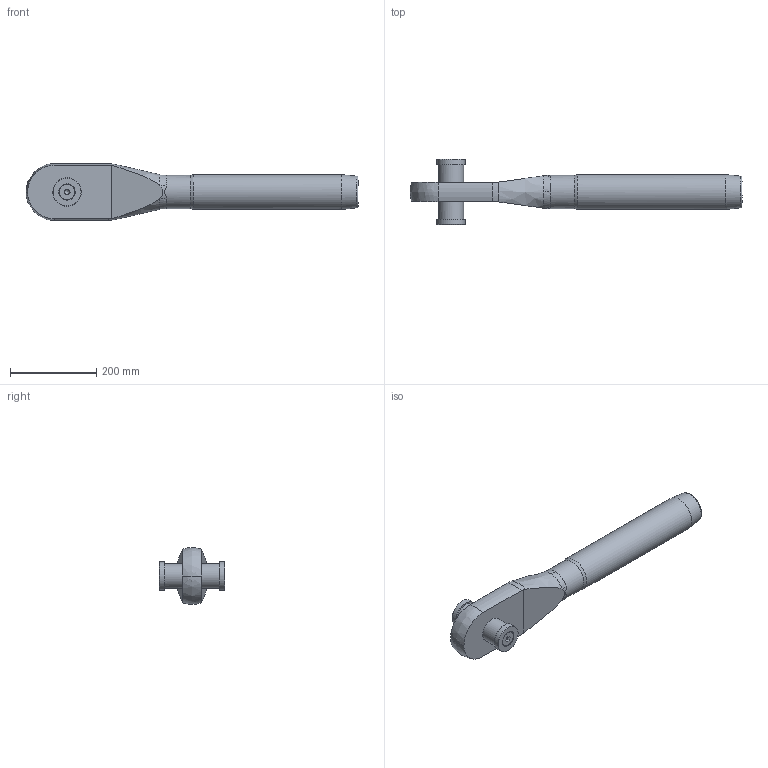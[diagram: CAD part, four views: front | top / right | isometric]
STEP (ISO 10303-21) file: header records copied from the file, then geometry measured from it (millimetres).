
FILE_DESCRIPTION(/* description */ (''),/* implementation_level */ '2;1');
FILE_NAME(/* name */ 'MCC 42_1,4418',/* time_stamp */ '2023-05-23T15:40:42+02:00',/* author */ (''),/* organization */ (''),/* preprocessor_version */ 'ST-DEVELOPER v16.5',/* originating_system */ 'Rhino 7.22',/* authorisation */ '');
FILE_SCHEMA (('CONFIG_CONTROL_DESIGN'));
Length unit declared in the file: millimetre
Products named in the file (1): Document
Bounding box: 771 x 151.54 x 131.99 mm (x, y, z)
Volume: 4304024.3 mm3; surface area: 281687.4 mm2
Topology: 6 solids, 6 shells, 74 faces, 202 edges, 134 vertices
Faces by surface type: bspline 31, plane 27, cylinder 16
Full cylindrical faces by diameter (mm): 17.294 x2, 20 x2, 21 x2, 35.4 x2, 58 x1, 59 x1, 66 x2, 77 x1, 81 x1
Entity records: 3241 total; most frequent: CARTESIAN_POINT 1990, ORIENTED_EDGE 384, EDGE_CURVE 192, VERTEX_POINT 134, EDGE_LOOP 84, ADVANCED_FACE 74, FACE_OUTER_BOUND 74, B_SPLINE_CURVE_WITH_KNOTS 64
